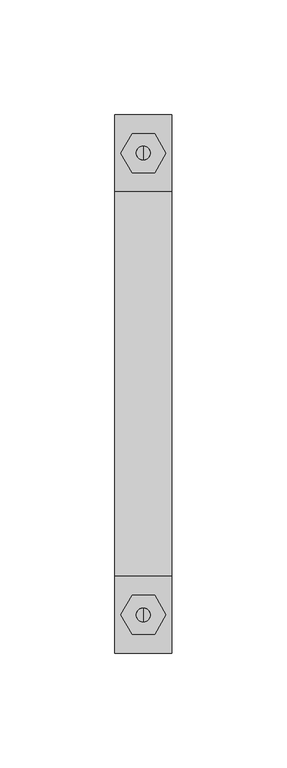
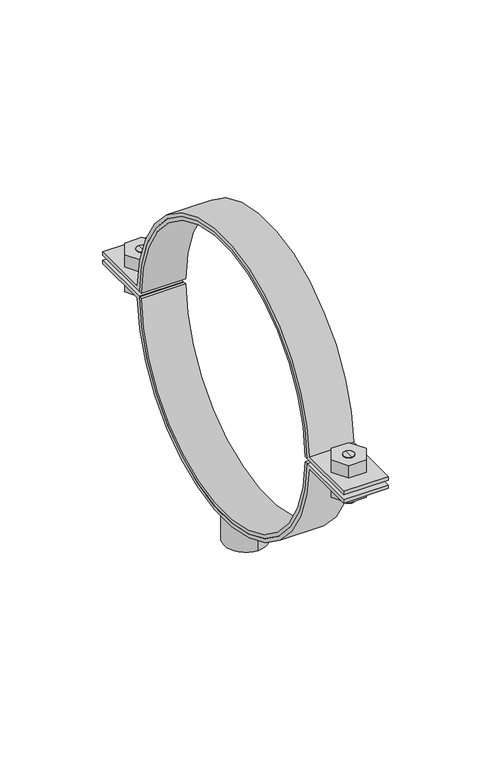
"""IFC4 building model written with IfcOpenShell, lengths in millimetres: valve geometry, Superfix DG2 Clamp (based on pipe) : Superfix DG2 Clamp (based on pipe)."""

from ifc_helpers import new_model, si_unit, point, frame, frame_2d, origin, origin_2d, place, context, project, spatial, polyline, circle_curve, trimmed, segment, composite_curve, outline, extrude, source, transform, mapped, element, save
from ifc_brep_helpers import plane_surface, cylinder_surface, advanced_brep


def valve_dfdcf4a3(model_context):
    return source(origin(), model_context, "Body", "SolidModel", [
        advanced_brep(
        [(0.0, 103.75, 342.4002332), (0.0, 97.75, 342.4002332), (0.0, 97.75, 357.0002332), (0.0, 103.75, 357.0002332), (0.0, 100.75, 342.4002332)],
        [
            (0, 1, circle_curve(frame((0.0, 100.75, 342.4002332), z_axis=(0.0, 0.0, 1.0), x_axis=(0.0, 1.0, 0.0)), 3.0)),
            (1, 2),
            (2, 3, circle_curve(frame((0.0, 100.75, 357.0002332), z_axis=(0.0, 0.0, -1.0), x_axis=(0.0, 1.0, 0.0)), 3.0)),
            (3, 0),
            (1, 0, circle_curve(frame((0.0, 100.75, 342.4002332), z_axis=(0.0, 0.0, 1.0), x_axis=(0.0, 1.0, 0.0)), 3.0)),
            (3, 2, circle_curve(frame((0.0, 100.75, 357.0002332), z_axis=(0.0, 0.0, -1.0), x_axis=(0.0, 1.0, 0.0)), 3.0)),
            (0, 4),
            (4, 1),
        ],
        [
            cylinder_surface(frame((0.0, 100.75, 356.7808426), z_axis=(0.0, 0.0, 1.0), x_axis=(0.0, 1.0, 0.0)), 3.0),
            plane_surface(frame((0.0, 100.75, 342.4002332), z_axis=(0.0, 0.0, -1.0), x_axis=(0.0, 1.0, 0.0))),
            plane_surface(frame((13.75, -117.5, 357.0002332), z_axis=(0.0, 0.0, 1.0), x_axis=(-1.0, 0.0, 0.0))),
        ],
        [
            (0, [[1, 2, 3, 4]]),
            (0, [[5, -4, 6, -2]]),
            (1, [[-1, 7, 8]]),
            (1, [[-5, -8, -7]]),
            (2, [[-3, -6]]),
        ],
    ),
        advanced_brep(
        [(0.0, 97.75, 369.6002332), (0.0, 103.75, 369.6002332), (0.0, 103.75, 360.0002332), (0.0, 97.75, 360.0002332), (0.0, 100.75, 369.6002332)],
        [
            (0, 1, circle_curve(frame((0.0, 100.75, 369.6002332), z_axis=(0.0, 0.0, -1.0), x_axis=(0.0, 1.0, 0.0)), 3.0)),
            (1, 2),
            (2, 3, circle_curve(frame((0.0, 100.75, 360.0002332), z_axis=(0.0, 0.0, 1.0), x_axis=(0.0, 1.0, 0.0)), 3.0)),
            (3, 0),
            (1, 0, circle_curve(frame((0.0, 100.75, 369.6002332), z_axis=(0.0, 0.0, -1.0), x_axis=(0.0, 1.0, 0.0)), 3.0)),
            (3, 2, circle_curve(frame((0.0, 100.75, 360.0002332), z_axis=(0.0, 0.0, 1.0), x_axis=(0.0, 1.0, 0.0)), 3.0)),
            (0, 4),
            (4, 1),
        ],
        [
            cylinder_surface(frame((0.0, 100.75, 356.7808426), z_axis=(0.0, 0.0, 1.0), x_axis=(0.0, 1.0, 0.0)), 3.0),
            plane_surface(frame((0.0, 100.75, 369.6002332), z_axis=(0.0, 0.0, 1.0), x_axis=(0.0, 1.0, 0.0))),
            plane_surface(frame((13.75, 117.5, 360.0002332), z_axis=(0.0, 0.0, -1.0), x_axis=(-1.0, 0.0, 0.0))),
        ],
        [
            (0, [[1, 2, 3, 4]]),
            (0, [[5, -4, 6, -2]]),
            (1, [[-1, 7, 8]]),
            (1, [[-5, -8, -7]]),
            (2, [[-3, -6]]),
        ],
    ),
        advanced_brep(
        [(0.0, -103.75, 369.6002332), (0.0, -97.75, 369.6002332), (0.0, -97.75, 360.0002332), (0.0, -103.75, 360.0002332), (0.0, -100.75, 369.6002332)],
        [
            (0, 1, circle_curve(frame((0.0, -100.75, 369.6002332), z_axis=(0.0, 0.0, -1.0), x_axis=(0.0, -1.0, 0.0)), 3.0)),
            (1, 2),
            (2, 3, circle_curve(frame((0.0, -100.75, 360.0002332), z_axis=(0.0, 0.0, 1.0), x_axis=(0.0, -1.0, 0.0)), 3.0)),
            (3, 0),
            (1, 0, circle_curve(frame((0.0, -100.75, 369.6002332), z_axis=(0.0, 0.0, -1.0), x_axis=(0.0, -1.0, 0.0)), 3.0)),
            (3, 2, circle_curve(frame((0.0, -100.75, 360.0002332), z_axis=(0.0, 0.0, 1.0), x_axis=(0.0, -1.0, 0.0)), 3.0)),
            (0, 4),
            (4, 1),
        ],
        [
            cylinder_surface(frame((0.0, -100.75, 356.7808426), z_axis=(0.0, 0.0, -1.0), x_axis=(0.0, -1.0, 0.0)), 3.0),
            plane_surface(frame((0.0, -100.75, 369.6002332), z_axis=(0.0, 0.0, 1.0), x_axis=(0.0, -1.0, 0.0))),
            plane_surface(frame((13.75, 117.5, 360.0002332), z_axis=(0.0, 0.0, -1.0), x_axis=(-1.0, 0.0, 0.0))),
        ],
        [
            (0, [[1, 2, 3, 4]]),
            (0, [[5, -4, 6, -2]]),
            (1, [[-1, 7, 8]]),
            (1, [[-5, -8, -7]]),
            (2, [[-3, -6]]),
        ],
    ),
        advanced_brep(
        [(0.0, -97.75, 342.4002332), (0.0, -103.75, 342.4002332), (0.0, -103.75, 357.0002332), (0.0, -97.75, 357.0002332), (0.0, -100.75, 342.4002332)],
        [
            (0, 1, circle_curve(frame((0.0, -100.75, 342.4002332), z_axis=(0.0, 0.0, 1.0), x_axis=(0.0, -1.0, 0.0)), 3.0)),
            (1, 2),
            (2, 3, circle_curve(frame((0.0, -100.75, 357.0002332), z_axis=(0.0, 0.0, -1.0), x_axis=(0.0, -1.0, 0.0)), 3.0)),
            (3, 0),
            (1, 0, circle_curve(frame((0.0, -100.75, 342.4002332), z_axis=(0.0, 0.0, 1.0), x_axis=(0.0, -1.0, 0.0)), 3.0)),
            (3, 2, circle_curve(frame((0.0, -100.75, 357.0002332), z_axis=(0.0, 0.0, -1.0), x_axis=(0.0, -1.0, 0.0)), 3.0)),
            (0, 4),
            (4, 1),
        ],
        [
            cylinder_surface(frame((0.0, -100.75, 356.7808426), z_axis=(0.0, 0.0, -1.0), x_axis=(0.0, -1.0, 0.0)), 3.0),
            plane_surface(frame((0.0, -100.75, 342.4002332), z_axis=(0.0, 0.0, -1.0), x_axis=(0.0, -1.0, 0.0))),
            plane_surface(frame((13.75, -117.5, 357.0002332), z_axis=(0.0, 0.0, 1.0), x_axis=(-1.0, 0.0, 0.0))),
        ],
        [
            (0, [[1, 2, 3, 4]]),
            (0, [[5, -4, 6, -2]]),
            (1, [[-1, 7, 8]]),
            (1, [[-5, -8, -7]]),
            (2, [[-3, -6]]),
        ],
    ),
        extrude(outline(composite_curve([segment(trimmed(circle_curve(frame_2d((0.0, 358.5002332)), 82.0), [point((-81.9862793, 357.0002332))], [point((81.9862793, 357.0002332))], True, "CARTESIAN"), True, "CONTINUOUS"), segment(polyline([(81.9862793, 357.0002332), (117.5, 357.0002332), (117.5, 355.0002332), (83.9270517, 355.0002332)]), True, "CONTINUOUS"), segment(trimmed(circle_curve(frame_2d((0.0, 358.5002332)), 84.0), [point((83.9270517, 355.0002332))], [point((-83.9270517, 355.0002332))], False, "CARTESIAN"), True, "CONTINUOUS"), segment(polyline([(-83.9270517, 355.0002332), (-117.5, 355.0002332), (-117.5, 357.0002332), (-81.9862793, 357.0002332)]), True, "CONTINUOUS")], self_intersect=False)), frame((-12.5, 0.0, 0.0), z_axis=(1.0, 0.0, 0.0), x_axis=(0.0, 1.0, 0.0)), (0.0, 0.0, 1.0), 25.0),
        extrude(outline(composite_curve([segment(trimmed(circle_curve(frame_2d((0.0, 358.5002332)), 82.0), [point((81.9862793, 360.0002332))], [point((-81.9862793, 360.0002332))], True, "CARTESIAN"), True, "CONTINUOUS"), segment(polyline([(-81.9862793, 360.0002332), (-117.5, 360.0002332), (-117.5, 362.0002332), (-83.9270517, 362.0002332)]), True, "CONTINUOUS"), segment(trimmed(circle_curve(frame_2d((0.0, 358.5002332)), 84.0), [point((-83.9270517, 362.0002332))], [point((83.9270517, 362.0002332))], False, "CARTESIAN"), True, "CONTINUOUS"), segment(polyline([(83.9270517, 362.0002332), (117.5, 362.0002332), (117.5, 360.0002332), (81.9862793, 360.0002332)]), True, "CONTINUOUS")], self_intersect=False)), frame((-12.5, 0.0, 0.0), z_axis=(1.0, 0.0, 0.0), x_axis=(0.0, 1.0, 0.0)), (0.0, 0.0, 1.0), 25.0),
        extrude(outline(polyline([(9.8149546, -100.75), (4.9074773, -109.25), (-4.9074773, -109.25), (-9.8149546, -100.75), (-4.9074773, -92.25), (4.9074773, -92.25), (9.8149546, -100.75)]), holes=[composite_curve([segment(trimmed(circle_curve(frame_2d((0.0, -100.75)), 3.0), [point((3.0, -100.75))], [point((-3.0, -100.75))], True, "CARTESIAN"), True, "CONTINUOUS"), segment(trimmed(circle_curve(frame_2d((0.0, -100.75)), 3.0), [point((-3.0, -100.75))], [point((3.0, -100.75))], True, "CARTESIAN"), True, "CONTINUOUS")], self_intersect=False)]), frame((0.0, 0.0, 362.0002332), z_axis=(0.0, 0.0, 1.0), x_axis=(1.0, 0.0, 0.0)), (0.0, 0.0, 1.0), 7.6),
        extrude(outline(polyline([(9.8149546, 100.75), (4.9074773, 92.25), (-4.9074773, 92.25), (-9.8149546, 100.75), (-4.9074773, 109.25), (4.9074773, 109.25), (9.8149546, 100.75)]), holes=[composite_curve([segment(trimmed(circle_curve(frame_2d((0.0, 100.75)), 3.0), [point((3.0, 100.75))], [point((-3.0, 100.75))], True, "CARTESIAN"), True, "CONTINUOUS"), segment(trimmed(circle_curve(frame_2d((0.0, 100.75)), 3.0), [point((-3.0, 100.75))], [point((3.0, 100.75))], True, "CARTESIAN"), True, "CONTINUOUS")], self_intersect=False)]), frame((0.0, 0.0, 362.0002332), z_axis=(0.0, 0.0, 1.0), x_axis=(1.0, 0.0, 0.0)), (0.0, 0.0, 1.0), 7.6),
        extrude(outline(polyline([(9.8149546, -100.75), (4.9074773, -109.25), (-4.9074773, -109.25), (-9.8149546, -100.75), (-4.9074773, -92.25), (4.9074773, -92.25), (9.8149546, -100.75)]), holes=[composite_curve([segment(trimmed(circle_curve(frame_2d((0.0, -100.75)), 3.0), [point((3.0, -100.75))], [point((-3.0, -100.75))], True, "CARTESIAN"), True, "CONTINUOUS"), segment(trimmed(circle_curve(frame_2d((0.0, -100.75)), 3.0), [point((-3.0, -100.75))], [point((3.0, -100.75))], True, "CARTESIAN"), True, "CONTINUOUS")], self_intersect=False)]), frame((0.0, 0.0, 347.4002332), z_axis=(0.0, 0.0, 1.0), x_axis=(1.0, 0.0, 0.0)), (0.0, 0.0, 1.0), 7.6),
        extrude(outline(polyline([(9.8149546, 100.75), (4.9074773, 92.25), (-4.9074773, 92.25), (-9.8149546, 100.75), (-4.9074773, 109.25), (4.9074773, 109.25), (9.8149546, 100.75)]), holes=[composite_curve([segment(trimmed(circle_curve(frame_2d((0.0, 100.75)), 3.0), [point((3.0, 100.75))], [point((-3.0, 100.75))], True, "CARTESIAN"), True, "CONTINUOUS"), segment(trimmed(circle_curve(frame_2d((0.0, 100.75)), 3.0), [point((-3.0, 100.75))], [point((3.0, 100.75))], True, "CARTESIAN"), True, "CONTINUOUS")], self_intersect=False)]), frame((0.0, 0.0, 347.4002332), z_axis=(0.0, 0.0, 1.0), x_axis=(1.0, 0.0, 0.0)), (0.0, 0.0, 1.0), 7.6),
        extrude(outline(composite_curve([segment(trimmed(circle_curve(origin_2d(), 12.0), [point((0.0, 12.0))], [point((0.0, -12.0))], False, "CARTESIAN"), True, "CONTINUOUS"), segment(trimmed(circle_curve(origin_2d(), 12.0), [point((0.0, -12.0))], [point((0.0, 12.0))], False, "CARTESIAN"), True, "CONTINUOUS")], self_intersect=False), holes=[composite_curve([segment(trimmed(circle_curve(origin_2d(), 8.0), [point((0.0, 8.0))], [point((0.0, -8.0))], True, "CARTESIAN"), True, "CONTINUOUS"), segment(trimmed(circle_curve(origin_2d(), 8.0), [point((0.0, -8.0))], [point((0.0, 8.0))], True, "CARTESIAN"), True, "CONTINUOUS")], self_intersect=False)]), frame((0.0, 0.0, 258.5002332), z_axis=(0.0, 0.0, 1.0), x_axis=(1.0, 0.0, 0.0)), (0.0, 0.0, 1.0), 18.0),
        extrude(outline(composite_curve([segment(trimmed(circle_curve(frame_2d((0.0, 358.5002332)), 80.0), [point((79.9859363, 360.0002332))], [point((-79.9859363, 360.0002332))], True, "CARTESIAN"), True, "CONTINUOUS"), segment(polyline([(-79.9859363, 360.0002332), (-81.9862793, 360.0002332)]), True, "CONTINUOUS"), segment(trimmed(circle_curve(frame_2d((0.0, 358.5002332)), 82.0), [point((-81.9862793, 360.0002332))], [point((81.9862793, 360.0002332))], False, "CARTESIAN"), True, "CONTINUOUS"), segment(polyline([(81.9862793, 360.0002332), (79.9859363, 360.0002332)]), True, "CONTINUOUS")], self_intersect=False)), frame((-12.5, 0.0, 0.0), z_axis=(1.0, 0.0, 0.0), x_axis=(0.0, 1.0, 0.0)), (0.0, 0.0, 1.0), 25.0),
        extrude(outline(composite_curve([segment(polyline([(79.9859363, 357.0002332), (81.9862793, 357.0002332)]), True, "CONTINUOUS"), segment(trimmed(circle_curve(frame_2d((0.0, 358.5002332)), 82.0), [point((81.9862793, 357.0002332))], [point((-81.9862793, 357.0002332))], False, "CARTESIAN"), True, "CONTINUOUS"), segment(polyline([(-81.9862793, 357.0002332), (-79.9859363, 357.0002332)]), True, "CONTINUOUS"), segment(trimmed(circle_curve(frame_2d((0.0, 358.5002332)), 80.0), [point((-79.9859363, 357.0002332))], [point((79.9859363, 357.0002332))], True, "CARTESIAN"), True, "CONTINUOUS")], self_intersect=False)), frame((-12.5, 0.0, 0.0), z_axis=(1.0, 0.0, 0.0), x_axis=(0.0, 1.0, 0.0)), (0.0, 0.0, 1.0), 25.0),
    ])


if __name__ == "__main__":
    model = new_model("IFC4")
    model_context = context("Model", 3, world=origin())
    ifc_project = project(units=[si_unit("LENGTHUNIT", "METRE", prefix="MILLI")], contexts=[model_context])
    site = spatial("IfcSite", under=ifc_project)
    building = spatial("IfcBuilding", under=site)
    placement = place(None, origin())
    valve_shape = valve_dfdcf4a3(model_context)
    element("IfcValve", 1, ObjectType="Superfix DG2 Clamp (based on pipe) : Superfix DG2 Clamp (based on pipe)", at=placement, inside=building, context=model_context, shape_type="MappedRepresentation", body=[
        mapped(valve_shape, transform((0.0, 0.0, 0.0), x_axis=(1.0, 0.0, 0.0), y_axis=(0.0, 1.0, 0.0), z_axis=(0.0, 0.0, 1.0))),
    ])
    save(model, "model.ifc")
